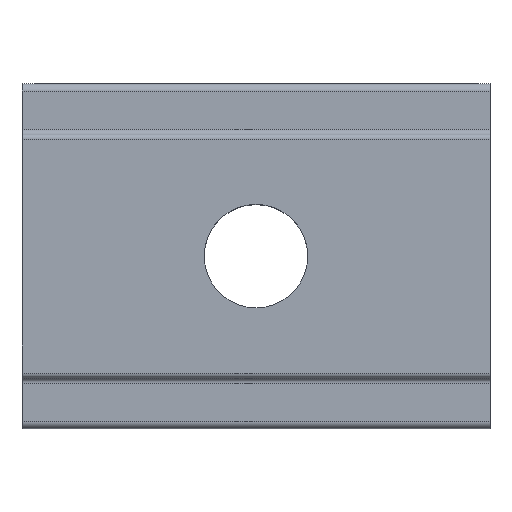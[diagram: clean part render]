
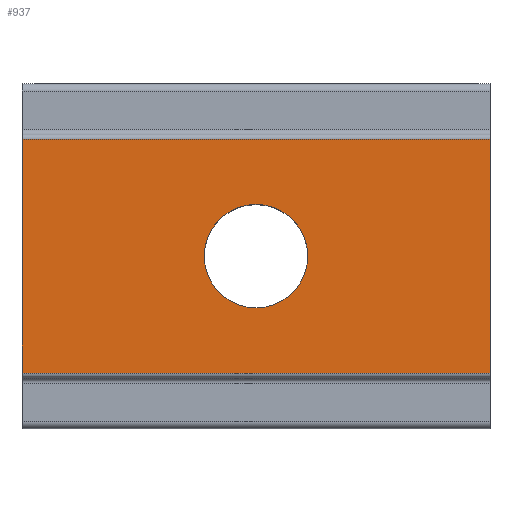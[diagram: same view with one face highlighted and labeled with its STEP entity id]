
A CAD part, top view. The second image highlights one B-rep face of the part: STEP entity #937.
In plain terms, the highlighted planar face has unit normal (0, 0, 1).
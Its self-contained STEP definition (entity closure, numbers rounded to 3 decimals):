
#54 = ORIENTED_EDGE ( 'NONE', *, *, #928, .F. ) ;
#89 = ORIENTED_EDGE ( 'NONE', *, *, #1401, .F. ) ;
#130 = CARTESIAN_POINT ( 'NONE',  ( 9.5, -4.75, 0. ) ) ;
#143 = AXIS2_PLACEMENT_3D ( 'NONE', #946, #606, #1076 ) ;
#165 = DIRECTION ( 'NONE',  ( 0., 0., -1. ) ) ;
#172 = DIRECTION ( 'NONE',  ( -1., 0., 0. ) ) ;
#180 = LINE ( 'NONE', #1348, #1106 ) ;
#189 = CARTESIAN_POINT ( 'NONE',  ( 9.5, 4.75, 0. ) ) ;
#248 = CARTESIAN_POINT ( 'NONE',  ( 2.1, 0., 0. ) ) ;
#258 = CARTESIAN_POINT ( 'NONE',  ( -9.5, 4.75, 0. ) ) ;
#264 = DIRECTION ( 'NONE',  ( 1., 0., 0. ) ) ;
#293 = LINE ( 'NONE', #189, #510 ) ;
#309 = ORIENTED_EDGE ( 'NONE', *, *, #883, .F. ) ;
#372 = VERTEX_POINT ( 'NONE', #1280 ) ;
#394 = DIRECTION ( 'NONE',  ( -1., 0., 0. ) ) ;
#396 = ORIENTED_EDGE ( 'NONE', *, *, #1423, .F. ) ;
#399 = VECTOR ( 'NONE', #741, 1000. ) ;
#451 = AXIS2_PLACEMENT_3D ( 'NONE', #1206, #165, #394 ) ;
#510 = VECTOR ( 'NONE', #1242, 1000. ) ;
#539 = EDGE_CURVE ( 'NONE', #1230, #1258, #1409, .T. ) ;
#605 = EDGE_CURVE ( 'NONE', #1024, #1306, #1368, .T. ) ;
#606 = DIRECTION ( 'NONE',  ( 0., 0., 1. ) ) ;
#627 = EDGE_LOOP ( 'NONE', ( #54, #1001 ) ) ;
#735 = AXIS2_PLACEMENT_3D ( 'NONE', #1437, #1321, #264 ) ;
#741 = DIRECTION ( 'NONE',  ( 0., 1., 0. ) ) ;
#804 = DIRECTION ( 'NONE',  ( 0., -1., 0. ) ) ;
#854 = LINE ( 'NONE', #1461, #399 ) ;
#883 = EDGE_CURVE ( 'NONE', #372, #930, #854, .T. ) ;
#928 = EDGE_CURVE ( 'NONE', #1258, #1230, #1394, .T. ) ;
#930 = VERTEX_POINT ( 'NONE', #258 ) ;
#937 = ADVANCED_FACE ( 'NONE', ( #1227, #1102 ), #990, .F. ) ;
#946 = CARTESIAN_POINT ( 'NONE',  ( 0., 0., 0. ) ) ;
#982 = ORIENTED_EDGE ( 'NONE', *, *, #605, .F. ) ;
#987 = CARTESIAN_POINT ( 'NONE',  ( -2.1, 0., 0. ) ) ;
#990 = PLANE ( 'NONE',  #451 ) ;
#1001 = ORIENTED_EDGE ( 'NONE', *, *, #539, .F. ) ;
#1008 = CARTESIAN_POINT ( 'NONE',  ( 9.5, 4.75, 0. ) ) ;
#1024 = VERTEX_POINT ( 'NONE', #1008 ) ;
#1076 = DIRECTION ( 'NONE',  ( 1., 0., 0. ) ) ;
#1102 = FACE_BOUND ( 'NONE', #627, .T. ) ;
#1106 = VECTOR ( 'NONE', #172, 1000. ) ;
#1206 = CARTESIAN_POINT ( 'NONE',  ( 9.5, 4.75, 0. ) ) ;
#1227 = FACE_OUTER_BOUND ( 'NONE', #1532, .T. ) ;
#1230 = VERTEX_POINT ( 'NONE', #987 ) ;
#1242 = DIRECTION ( 'NONE',  ( 1., 0., 0. ) ) ;
#1255 = VECTOR ( 'NONE', #804, 1000. ) ;
#1258 = VERTEX_POINT ( 'NONE', #248 ) ;
#1280 = CARTESIAN_POINT ( 'NONE',  ( -9.5, -4.75, 0. ) ) ;
#1306 = VERTEX_POINT ( 'NONE', #130 ) ;
#1321 = DIRECTION ( 'NONE',  ( 0., 0., 1. ) ) ;
#1348 = CARTESIAN_POINT ( 'NONE',  ( 9.5, -4.75, 0. ) ) ;
#1368 = LINE ( 'NONE', #1385, #1255 ) ;
#1385 = CARTESIAN_POINT ( 'NONE',  ( 9.5, 4.75, 0. ) ) ;
#1394 = CIRCLE ( 'NONE', #735, 2.1 ) ;
#1401 = EDGE_CURVE ( 'NONE', #930, #1024, #293, .T. ) ;
#1409 = CIRCLE ( 'NONE', #143, 2.1 ) ;
#1423 = EDGE_CURVE ( 'NONE', #1306, #372, #180, .T. ) ;
#1437 = CARTESIAN_POINT ( 'NONE',  ( 0., 0., 0. ) ) ;
#1461 = CARTESIAN_POINT ( 'NONE',  ( -9.5, 4.75, 0. ) ) ;
#1532 = EDGE_LOOP ( 'NONE', ( #396, #982, #89, #309 ) ) ;
